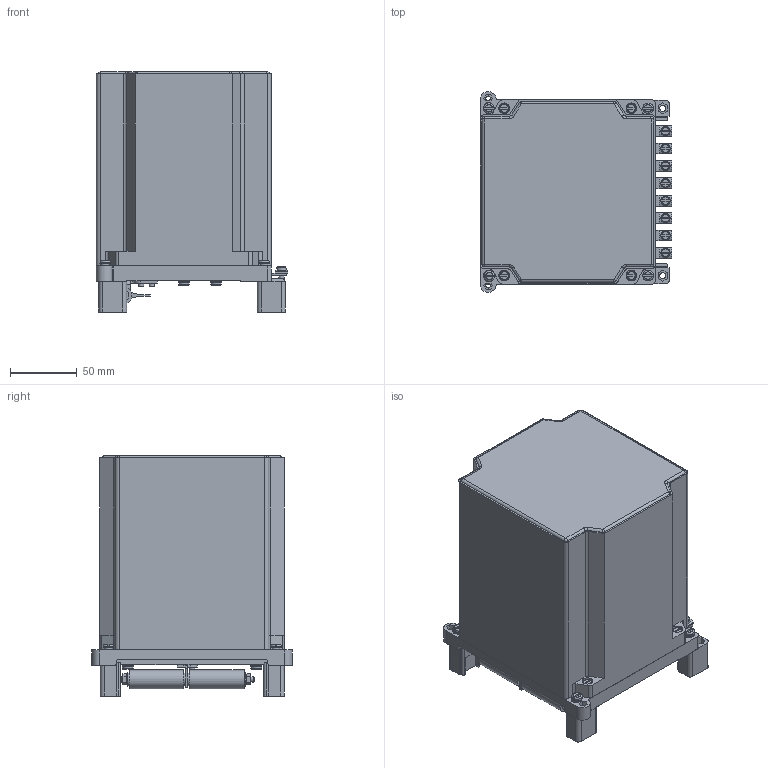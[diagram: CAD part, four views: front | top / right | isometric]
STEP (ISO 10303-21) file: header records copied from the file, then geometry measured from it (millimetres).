
FILE_DESCRIPTION(('STEP AP214'), '1');
FILE_NAME('ÈÃÔÐ.647531.001-08 ÑÁ - ÐÑÒ 23-1 ï.ï.', '', ('UNSPECIFIED'), ('UNSPECIFIED'), 'ASCON STEP Converter 1.3', 'ASCON Math Kernel', '');
FILE_SCHEMA(('AUTOMOTIVE_DESIGN { 1 0 10303 214 3 1 1}'));
Length unit declared in the file: millimetre
Products named in the file (1): 让孕.647531.001-08 蚜
Bounding box: 143.25 x 149.97 x 179.5 mm (x, y, z)
Volume: 456490.3 mm3; surface area: 306461.6 mm2
Topology: 1 solids, 1 shells, 7643 faces, 20511 edges, 13497 vertices
Faces by surface type: plane 5243, cylinder 2226, torus 93, cone 65, sphere 16
Full cylindrical faces by diameter (mm): 2 x4, 3.3 x8, 3.5 x2, 4 x52, 4.3 x19, 4.5 x23, 4.56 x1, 5.2 x4, 5.3 x5, 6 x2, 7.5 x2, 8 x12, 10 x4, 14 x2
Entity records: 305947 total; most frequent: CARTESIAN_POINT 50451, ORIENTED_EDGE 40486, DIRECTION 39984, EDGE_CURVE 20243, LINE 14818, VECTOR 14818, VERTEX_POINT 13481, AXIS2_PLACEMENT_3D 12583
